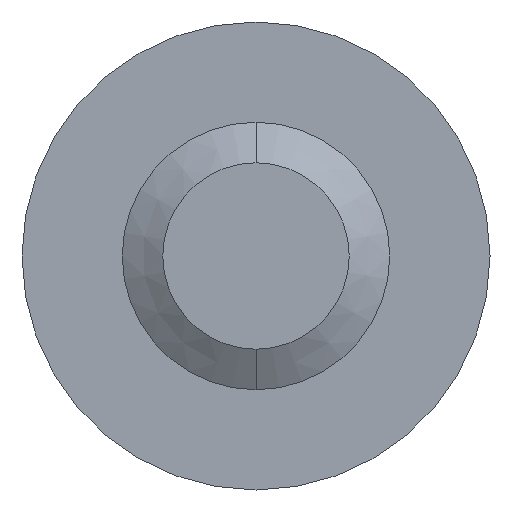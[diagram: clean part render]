
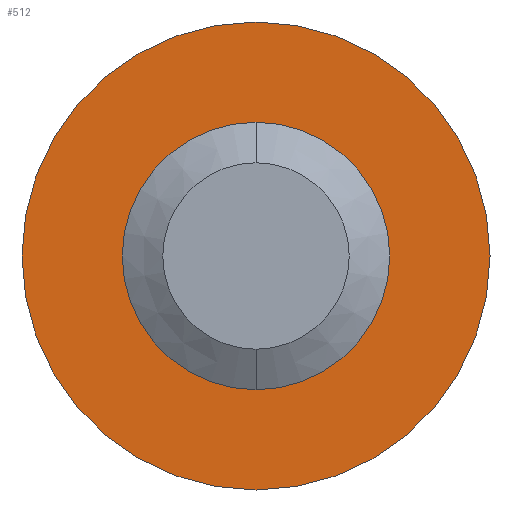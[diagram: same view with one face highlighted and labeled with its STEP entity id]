
A CAD part, front view. The second image highlights one B-rep face of the part: STEP entity #512.
In plain terms, the highlighted planar face has unit normal (0, -1, 0).
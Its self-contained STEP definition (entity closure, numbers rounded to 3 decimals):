
#48 = CARTESIAN_POINT ( 'NONE',  ( 0., 10., -2. ) ) ;
#67 = EDGE_CURVE ( 'NONE', #1406, #252, #1205, .T. ) ;
#94 = CARTESIAN_POINT ( 'NONE',  ( 0., 10., 2. ) ) ;
#100 = DIRECTION ( 'NONE',  ( 0., 0., 1. ) ) ;
#115 = CIRCLE ( 'NONE', #815, 3.5 ) ;
#252 = VERTEX_POINT ( 'NONE', #94 ) ;
#268 = EDGE_LOOP ( 'NONE', ( #1619, #388 ) ) ;
#317 = DIRECTION ( 'NONE',  ( 0., 0., 1. ) ) ;
#349 = FACE_BOUND ( 'NONE', #268, .T. ) ;
#361 = DIRECTION ( 'NONE',  ( 0., 1., 0. ) ) ;
#388 = ORIENTED_EDGE ( 'NONE', *, *, #1152, .T. ) ;
#510 = PLANE ( 'NONE',  #2128 ) ;
#512 = ADVANCED_FACE ( 'NONE', ( #1355, #349 ), #510, .F. ) ;
#581 = CARTESIAN_POINT ( 'NONE',  ( 0., 10., 0. ) ) ;
#590 = VERTEX_POINT ( 'NONE', #1199 ) ;
#747 = EDGE_CURVE ( 'NONE', #590, #1711, #1843, .T. ) ;
#805 = CARTESIAN_POINT ( 'NONE',  ( 0., 10., 0. ) ) ;
#815 = AXIS2_PLACEMENT_3D ( 'NONE', #967, #1135, #1817 ) ;
#967 = CARTESIAN_POINT ( 'NONE',  ( 0., 10., 0. ) ) ;
#1011 = CARTESIAN_POINT ( 'NONE',  ( 0., 10., 0. ) ) ;
#1103 = EDGE_CURVE ( 'NONE', #1711, #590, #115, .T. ) ;
#1135 = DIRECTION ( 'NONE',  ( 0., 1., 0. ) ) ;
#1152 = EDGE_CURVE ( 'NONE', #252, #1406, #1414, .T. ) ;
#1199 = CARTESIAN_POINT ( 'NONE',  ( 0., 10., -3.5 ) ) ;
#1205 = CIRCLE ( 'NONE', #1309, 2. ) ;
#1252 = DIRECTION ( 'NONE',  ( 0., 1., 0. ) ) ;
#1258 = EDGE_LOOP ( 'NONE', ( #1799, #1999 ) ) ;
#1309 = AXIS2_PLACEMENT_3D ( 'NONE', #805, #361, #1511 ) ;
#1322 = CARTESIAN_POINT ( 'NONE',  ( 0., 10., 3.5 ) ) ;
#1355 = FACE_OUTER_BOUND ( 'NONE', #1258, .T. ) ;
#1406 = VERTEX_POINT ( 'NONE', #48 ) ;
#1414 = CIRCLE ( 'NONE', #1520, 2. ) ;
#1511 = DIRECTION ( 'NONE',  ( 0., 0., 1. ) ) ;
#1520 = AXIS2_PLACEMENT_3D ( 'NONE', #2121, #1827, #317 ) ;
#1619 = ORIENTED_EDGE ( 'NONE', *, *, #67, .T. ) ;
#1711 = VERTEX_POINT ( 'NONE', #1322 ) ;
#1716 = DIRECTION ( 'NONE',  ( 0., 0., 1. ) ) ;
#1799 = ORIENTED_EDGE ( 'NONE', *, *, #747, .F. ) ;
#1817 = DIRECTION ( 'NONE',  ( 0., 0., 1. ) ) ;
#1827 = DIRECTION ( 'NONE',  ( 0., 1., 0. ) ) ;
#1843 = CIRCLE ( 'NONE', #1955, 3.5 ) ;
#1955 = AXIS2_PLACEMENT_3D ( 'NONE', #581, #1252, #100 ) ;
#1999 = ORIENTED_EDGE ( 'NONE', *, *, #1103, .F. ) ;
#2036 = DIRECTION ( 'NONE',  ( 0., 1., 0. ) ) ;
#2121 = CARTESIAN_POINT ( 'NONE',  ( 0., 10., 0. ) ) ;
#2128 = AXIS2_PLACEMENT_3D ( 'NONE', #1011, #2036, #1716 ) ;
